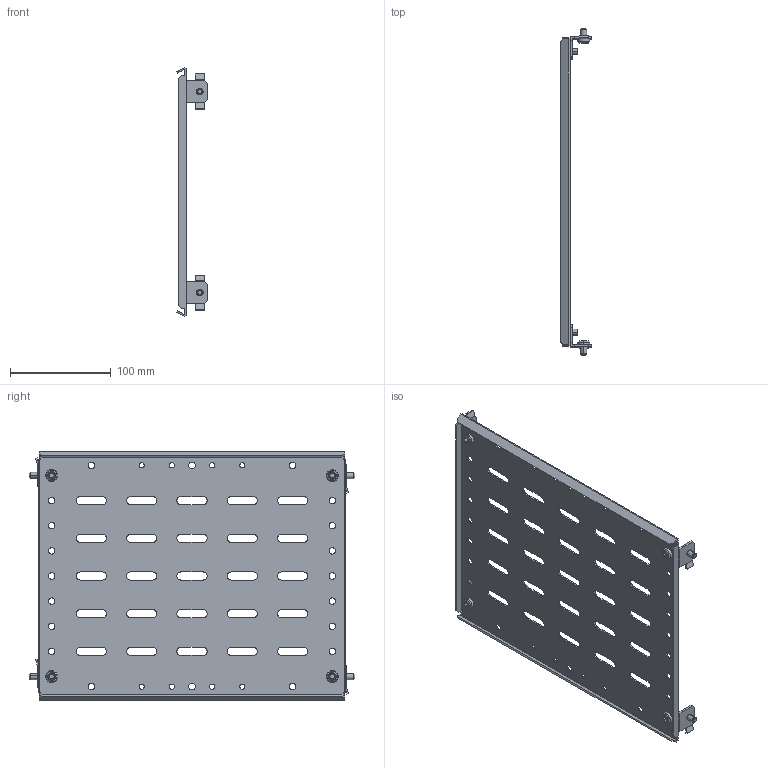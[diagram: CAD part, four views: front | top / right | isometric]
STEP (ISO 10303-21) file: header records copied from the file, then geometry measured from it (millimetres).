
FILE_DESCRIPTION (( 'STEP AP214' ), '1' );
FILE_NAME ('FO-00-SWF-025-040 Ïåðåãîðîäêà ñåêöèîíèðîâàíèÿ çàäíÿÿ 250õ400 ìì.STEP', '2025-08-12T08:18:35', ( '' ), ( '' ), 'SwSTEP 2.0', 'SolidWorks 2023', '' );
FILE_SCHEMA (( 'AUTOMOTIVE_DESIGN' ));
Length unit declared in the file: millimetre
Products named in the file (1): FO-00-SWF-025-040 Перегородка секционирования задняя 250х400 мм
Bounding box: 30.52 x 324 x 247.66 mm (x, y, z)
Volume: 128118.7 mm3; surface area: 167770.5 mm2
Topology: 1 solids, 5 shells, 585 faces, 1597 edges, 1042 vertices
Faces by surface type: cylinder 307, plane 222, torus 24, cone 24, sphere 8
Entity records: 19012 total; most frequent: CARTESIAN_POINT 3493, DIRECTION 3331, ORIENTED_EDGE 3194, EDGE_CURVE 1597, AXIS2_PLACEMENT_3D 1216, VERTEX_POINT 1042, LINE 899, VECTOR 899
